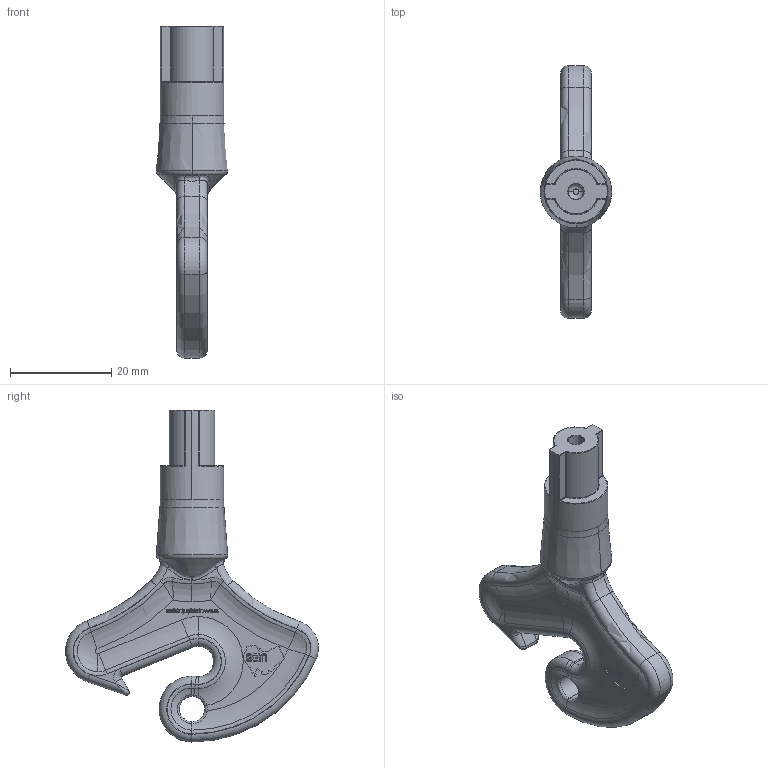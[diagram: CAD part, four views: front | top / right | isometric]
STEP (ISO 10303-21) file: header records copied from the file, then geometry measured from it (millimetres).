
FILE_DESCRIPTION (( 'STEP AP214' ), '1' );
FILE_NAME ('Double Bit.STEP', '2020-11-02T23:44:09', ( '' ), ( '' ), 'SwSTEP 2.0', 'SolidWorks 2018', '' );
FILE_SCHEMA (( 'AUTOMOTIVE_DESIGN' ));
Length unit declared in the file: millimetre
Products named in the file (1): Double Bit
Bounding box: 14.11 x 49.97 x 65.6 mm (x, y, z)
Volume: 8219.3 mm3; surface area: 4288.8 mm2
Topology: 1 solids, 1 shells, 515 faces, 1357 edges, 847 vertices
Faces by surface type: plane 234, bspline 126, torus 95, cylinder 48, sphere 8, cone 4
Entity records: 22253 total; most frequent: CARTESIAN_POINT 10324, ORIENTED_EDGE 2682, DIRECTION 2148, EDGE_CURVE 1341, VERTEX_POINT 847, LINE 758, VECTOR 758, AXIS2_PLACEMENT_3D 695
